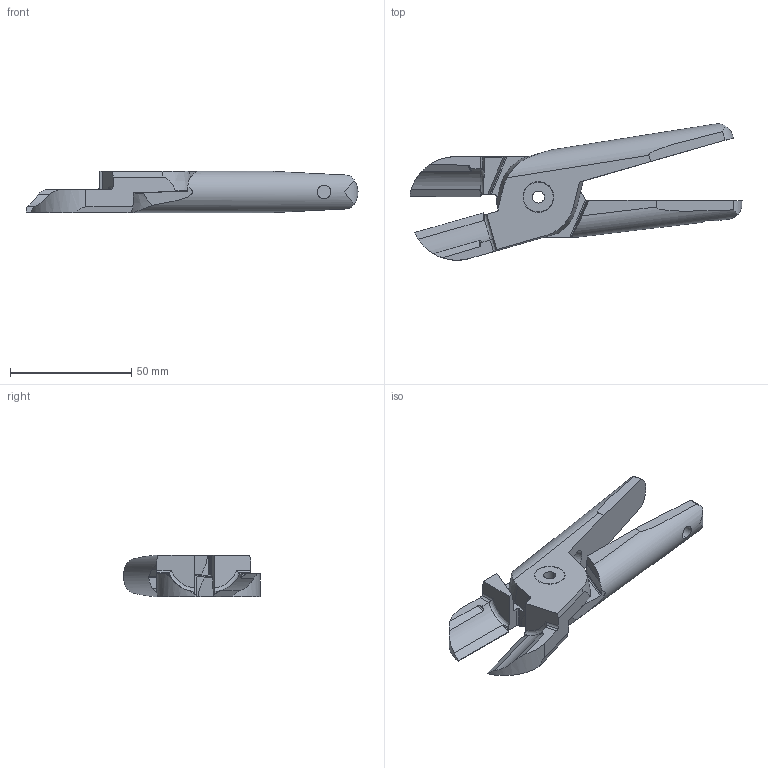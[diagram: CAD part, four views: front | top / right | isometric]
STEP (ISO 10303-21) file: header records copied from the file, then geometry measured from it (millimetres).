
FILE_DESCRIPTION((''),'2;1');
FILE_NAME('GPT-30-SI.stp','2007-09-12T14:21:57',(''),(''),'Mechanical Desktop 2005','Mechanical Desktop 2005',', , ');
FILE_SCHEMA(('CONFIG_CONTROL_DESIGN'));
Length unit declared in the file: inch
Products named in the file (4): 30SI; 30SIO; 30SIS; 30PRIVIT
Assembly tree (3 placements, depth 2):
  30SI
    30SIO
    30SIS
    30PRIVIT
Bounding box: 136.65 x 56.12 x 16.99 mm (x, y, z)
Volume: 42342.7 mm3; surface area: 17297.5 mm2
Topology: 3 solids, 3 shells, 146 faces, 405 edges, 264 vertices
Faces by surface type: plane 66, cylinder 62, cone 16, bspline 2
Entity records: 5125 total; most frequent: CARTESIAN_POINT 1247, ORIENTED_EDGE 802, DIRECTION 778, EDGE_CURVE 401, AXIS2_PLACEMENT_3D 281, VERTEX_POINT 264, VECTOR 216, LINE 216
